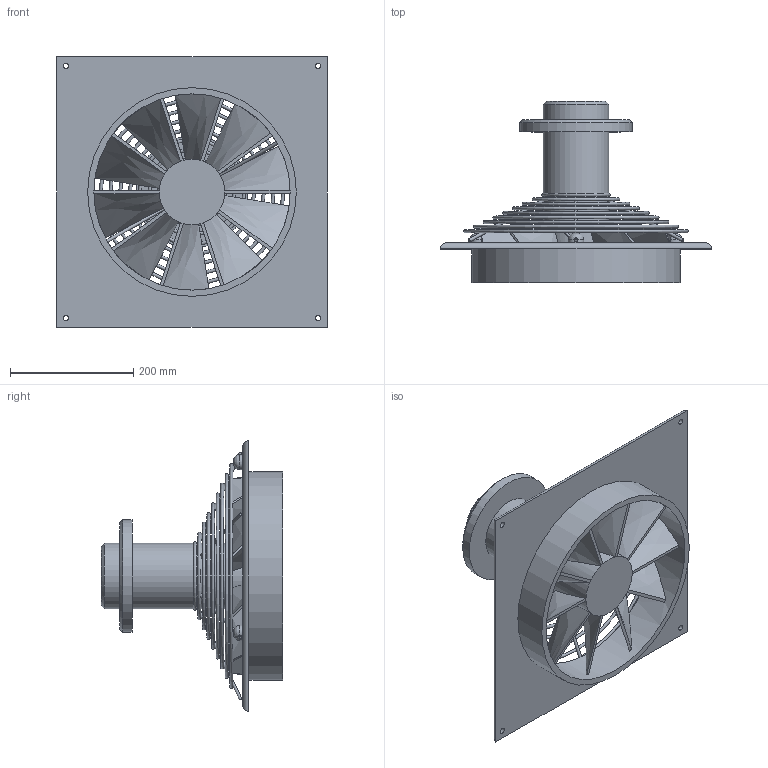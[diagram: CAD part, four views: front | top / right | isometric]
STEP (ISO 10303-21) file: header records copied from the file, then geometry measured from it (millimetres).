
FILE_DESCRIPTION(/* description */ (''),/* implementation_level */ '2;1');
FILE_NAME(/* name */ 'Z:\Output\HQD 315-4-4-01460-020.stp',/* time_stamp */ '2017-05-04T17:17:30+02:00',/* author */ ('pareshmistry'),/* organization */ (''),/* preprocessor_version */ 'ST-DEVELOPER v16.5',/* originating_system */ 'Autodesk Inventor 2017',/* authorisation */ '');
FILE_SCHEMA (('AUTOMOTIVE_DESIGN { 1 0 10303 214 3 1 1 }'));
Length unit declared in the file: millimetre
Products named in the file (1): HQW EC 450
Bounding box: 440 x 295 x 440 mm (x, y, z)
Volume: 5047253 mm3; surface area: 832217.5 mm2
Topology: 9 solids, 9 shells, 133 faces, 380 edges, 247 vertices
Faces by surface type: bspline 53, plane 42, cylinder 27, torus 9, cone 2
Full cylindrical faces by diameter (mm): 5 x9, 9 x4, 25 x3, 106.333 x3, 182.55 x1, 319 x1, 339 x1
Entity records: 5174 total; most frequent: CARTESIAN_POINT 2250, ORIENTED_EDGE 658, DIRECTION 472, EDGE_CURVE 319, VERTEX_POINT 220, EDGE_LOOP 171, AXIS2_PLACEMENT_3D 167, LINE 138
